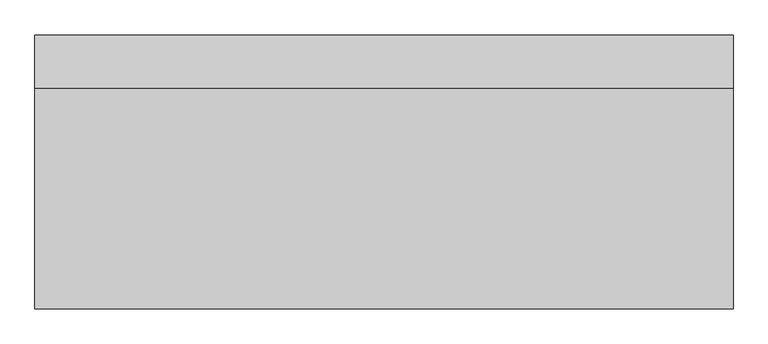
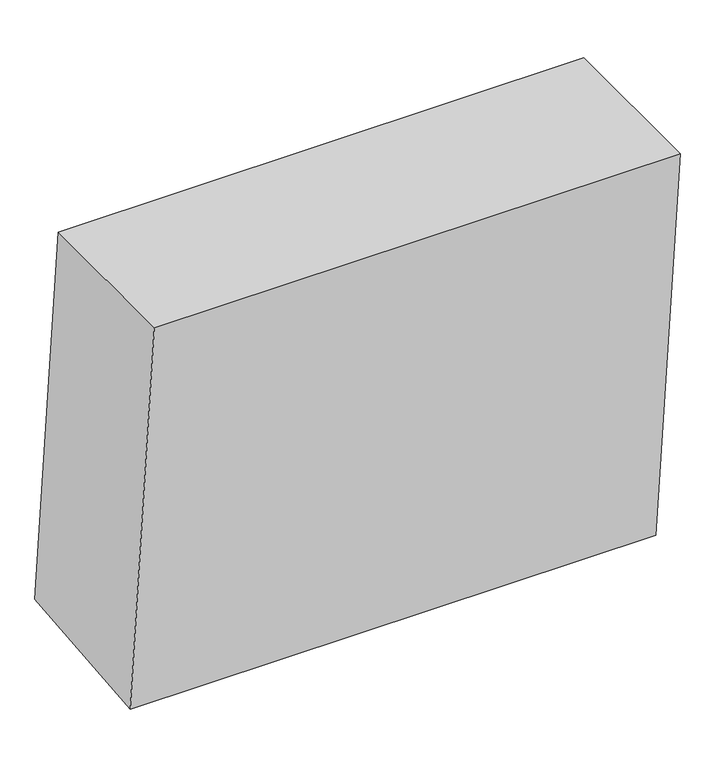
"""IFC4 building model written with IfcOpenShell, lengths in millimetres: proxy geometry, Excavation FamilySP : Excavation FamilySP."""

from ifc_helpers import new_model, si_unit, frame, origin, place, context, project, spatial, polyline, outline, extrude, source, transform, mapped, element, save


def generic_models_2d732e18(model_context):
    return source(origin(), model_context, "Body", "SweptSolid", [
        extrude(outline(polyline([(-232.8523237, 2391.6952453), (0.0, 0.0), (-956.6547775, -93.138659), (-1198.5912504, 2391.8625759), (-232.8523237, 2391.6952453)])), frame((-1524.0, 0.0, 0.0), z_axis=(1.0, 0.0, 0.0), x_axis=(0.0, 1.0, 0.0)), (0.0, 0.0, 1.0), 3048.0),
    ])


if __name__ == "__main__":
    model = new_model("IFC4")
    model_context = context("Model", 3, world=origin())
    ifc_project = project(units=[si_unit("LENGTHUNIT", "METRE", prefix="MILLI")], contexts=[model_context])
    site = spatial("IfcSite", under=ifc_project)
    building = spatial("IfcBuilding", under=site)
    placement = place(None, origin())
    generic_models_shape = generic_models_2d732e18(model_context)
    element("IfcBuildingElementProxy", 1, Name="Excavation FamilySP : Excavation FamilySP", ObjectType="Excavation FamilySP : Excavation FamilySP", at=placement, inside=building, context=model_context, shape_type="MappedRepresentation", body=[
        mapped(generic_models_shape, transform((0.0, 0.0, 0.0), x_axis=(1.0, 0.0, 0.0), y_axis=(0.0, 1.0, 0.0), z_axis=(0.0, 0.0, 1.0))),
    ])
    save(model, "model.ifc")
